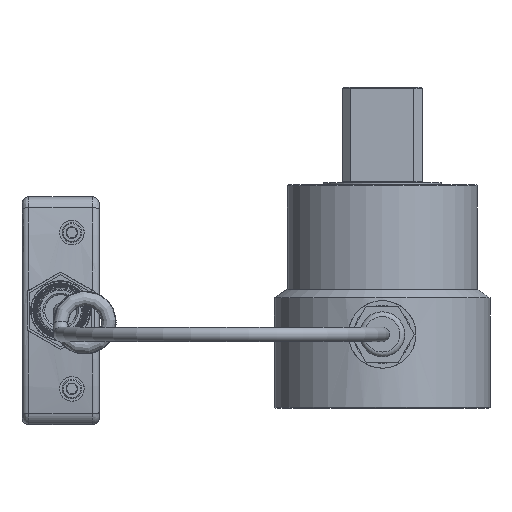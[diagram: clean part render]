
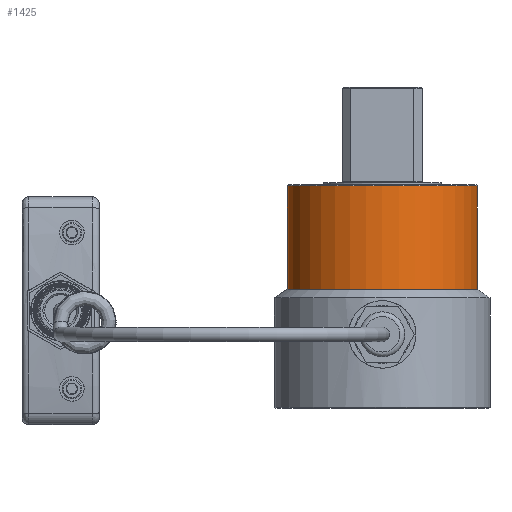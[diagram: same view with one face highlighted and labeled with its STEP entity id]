
A CAD part, left-side view. The second image highlights one B-rep face of the part: STEP entity #1425.
In plain terms, the highlighted cylindrical face has radius 22.479 mm (diameter 44.958 mm), a full revolution.
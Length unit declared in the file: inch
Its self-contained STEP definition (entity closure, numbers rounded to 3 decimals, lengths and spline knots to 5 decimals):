
#1383=CARTESIAN_POINT('',(28.37142,-13.38342,1.775));
#1384=VERTEX_POINT('',#1383);
#1385=CARTESIAN_POINT('',(28.37142,-14.26842,1.775));
#1386=DIRECTION('',(0.0,0.0,1.0));
#1387=DIRECTION('',(0.0,-1.0,0.0));
#1388=AXIS2_PLACEMENT_3D('',#1385,#1386,#1387);
#1389=CIRCLE('',#1388,0.885);
#1390=EDGE_CURVE('',#1384,#1384,#1389,.T.);
#1406=CARTESIAN_POINT('',(28.37142,-14.26842,1.2975));
#1407=DIRECTION('',(0.0,0.0,1.0));
#1408=DIRECTION('',(0.0,1.0,0.0));
#1409=AXIS2_PLACEMENT_3D('',#1406,#1407,#1408);
#1410=CYLINDRICAL_SURFACE('',#1409,0.885);
#1411=CARTESIAN_POINT('',(28.37142,-13.38342,0.81));
#1412=VERTEX_POINT('',#1411);
#1413=CARTESIAN_POINT('',(28.37142,-14.26842,0.81));
#1414=DIRECTION('',(0.0,0.0,-1.0));
#1415=DIRECTION('',(0.0,1.0,0.0));
#1416=AXIS2_PLACEMENT_3D('',#1413,#1414,#1415);
#1417=CIRCLE('',#1416,0.885);
#1418=EDGE_CURVE('',#1412,#1412,#1417,.T.);
#1419=ORIENTED_EDGE('',*,*,#1418,.F.);
#1420=EDGE_LOOP('',(#1419));
#1421=FACE_OUTER_BOUND('',#1420,.T.);
#1422=ORIENTED_EDGE('',*,*,#1390,.F.);
#1423=EDGE_LOOP('',(#1422));
#1424=FACE_BOUND('',#1423,.T.);
#1425=ADVANCED_FACE('',(#1421,#1424),#1410,.T.);
